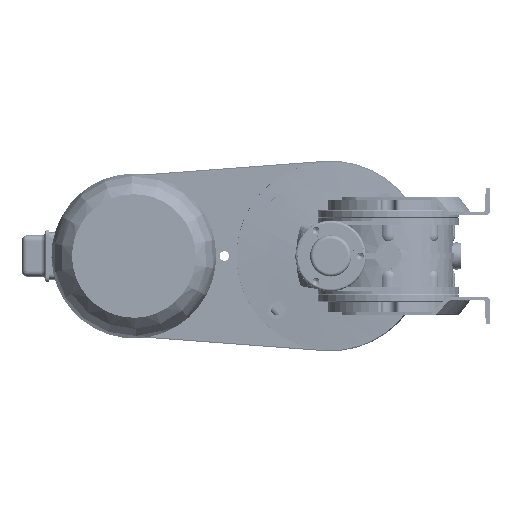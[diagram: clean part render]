
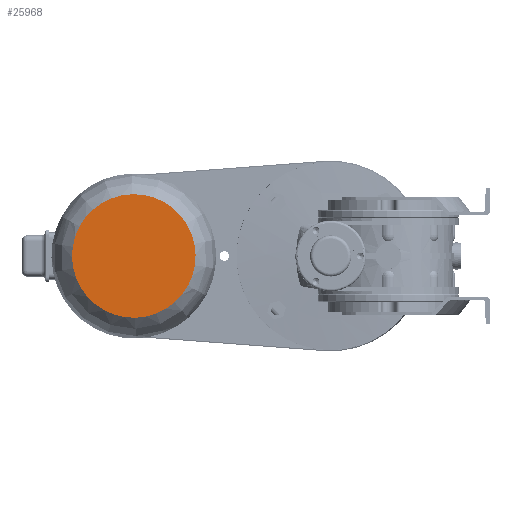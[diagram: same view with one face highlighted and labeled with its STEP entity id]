
A CAD part, left-side view. The second image highlights one B-rep face of the part: STEP entity #25968.
In plain terms, the highlighted planar face has unit normal (-1, 0, 0) as drawn and (0, 0, 1) by its records, which use the part's own axes.
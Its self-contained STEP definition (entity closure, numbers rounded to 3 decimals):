
#25651=CARTESIAN_POINT('Vertex',(-25.17,-46.073,216.)) ;
#25654=CARTESIAN_POINT('Axis2P3D Location',(0.,0.,216.)) ;
#25658=CARTESIAN_POINT('Vertex',(25.17,46.073,216.)) ;
#25673=CARTESIAN_POINT('Axis2P3D Location',(0.,0.,216.)) ;
#25959=CARTESIAN_POINT('Axis2P3D Location',(0.,-52.5,216.)) ;
#25655=DIRECTION('Axis2P3D Direction',(0.,0.,-1.)) ;
#25674=DIRECTION('Axis2P3D Direction',(0.,0.,-1.)) ;
#25960=DIRECTION('Axis2P3D Direction',(0.,0.,-1.)) ;
#25961=DIRECTION('Axis2P3D XDirection',(1.,0.,0.)) ;
#25656=AXIS2_PLACEMENT_3D('Circle Axis2P3D',#25654,#25655,$) ;
#25675=AXIS2_PLACEMENT_3D('Circle Axis2P3D',#25673,#25674,$) ;
#25962=AXIS2_PLACEMENT_3D('Plane Axis2P3D',#25959,#25960,#25961) ;
#25965=ORIENTED_EDGE('',*,*,#25660,.F.) ;
#25966=ORIENTED_EDGE('',*,*,#25677,.F.) ;
#25968=ADVANCED_FACE('',(#25967),#25963,.F.) ;
#25657=CIRCLE('generated circle',#25656,52.5) ;
#25676=CIRCLE('generated circle',#25675,52.5) ;
#25660=EDGE_CURVE('',#25652,#25659,#25657,.T.) ;
#25677=EDGE_CURVE('',#25659,#25652,#25676,.T.) ;
#25964=EDGE_LOOP('',(#25965,#25966)) ;
#25967=FACE_OUTER_BOUND('',#25964,.T.) ;
#25963=PLANE('Plane',#25962) ;
#25652=VERTEX_POINT('',#25651) ;
#25659=VERTEX_POINT('',#25658) ;
